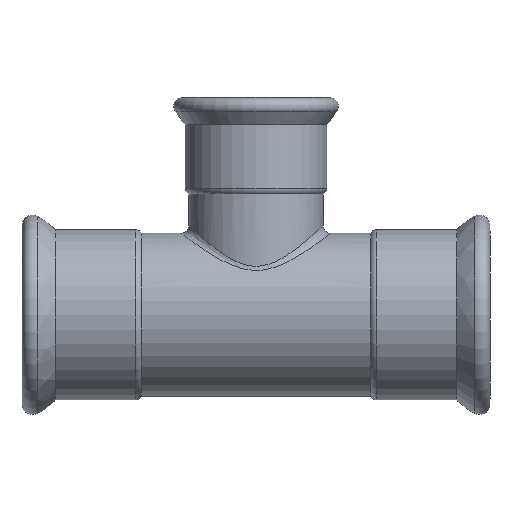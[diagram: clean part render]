
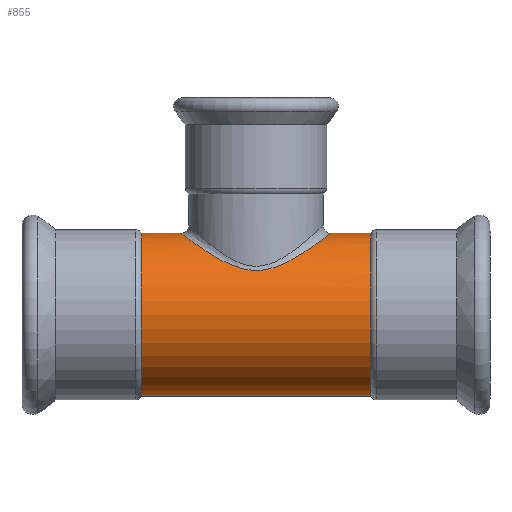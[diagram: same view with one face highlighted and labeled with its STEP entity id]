
A CAD part, front view. The second image highlights one B-rep face of the part: STEP entity #855.
In plain terms, the highlighted cylindrical face has radius 54 mm (diameter 108 mm), a full revolution.
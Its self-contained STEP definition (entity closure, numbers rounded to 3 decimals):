
#16=FACE_BOUND('',#152,.T.);
#22=B_SPLINE_CURVE_WITH_KNOTS('',3,(#2166,#2167,#2168,#2169,#2170,#2171,
#2172,#2173,#2174,#2175,#2176,#2177,#2178,#2179,#2180,#2181,#2182,#2183,
#2184,#2185,#2186,#2187,#2188,#2189,#2190,#2191,#2192,#2193,#2194,#2195,
#2196,#2197,#2198,#2199),.UNSPECIFIED.,.T.,.F.,(4,1,1,1,1,1,1,1,1,1,1,1,
1,1,1,1,1,1,1,1,1,1,1,1,1,1,1,1,1,1,1,4),(-28.921,-28.404,
-27.888,-26.855,-25.822,-24.789,
-23.412,-22.035,-20.658,-19.969,
-19.28,-18.592,-17.903,-16.526,
-15.493,-15.149,-14.46,-13.772,
-12.395,-11.706,-11.017,-9.64,
-8.263,-6.886,-5.509,-4.82,
-4.132,-3.099,-2.066,-1.033,
-0.516,0.),.UNSPECIFIED.);
#43=LINE('',#2211,#64);
#64=VECTOR('',#1244,54.);
#82=CYLINDRICAL_SURFACE('',#983,54.);
#111=FACE_OUTER_BOUND('',#151,.T.);
#151=EDGE_LOOP('',(#689,#690,#691,#692,#693,#694,#695,#696));
#152=EDGE_LOOP('',(#697));
#243=CIRCLE('',#984,54.);
#244=CIRCLE('',#985,54.);
#245=CIRCLE('',#986,54.);
#246=CIRCLE('',#987,54.);
#247=CIRCLE('',#988,54.);
#248=CIRCLE('',#989,54.);
#351=VERTEX_POINT('',#2124);
#355=VERTEX_POINT('',#2205);
#356=VERTEX_POINT('',#2206);
#357=VERTEX_POINT('',#2208);
#358=VERTEX_POINT('',#2210);
#359=VERTEX_POINT('',#2212);
#360=VERTEX_POINT('',#2214);
#478=EDGE_CURVE('',#351,#351,#22,.T.);
#481=EDGE_CURVE('',#355,#356,#243,.T.);
#482=EDGE_CURVE('',#356,#357,#244,.T.);
#483=EDGE_CURVE('',#357,#358,#43,.T.);
#484=EDGE_CURVE('',#359,#358,#245,.T.);
#485=EDGE_CURVE('',#360,#359,#246,.T.);
#486=EDGE_CURVE('',#358,#360,#247,.T.);
#487=EDGE_CURVE('',#357,#355,#248,.T.);
#689=ORIENTED_EDGE('',*,*,#481,.T.);
#690=ORIENTED_EDGE('',*,*,#482,.T.);
#691=ORIENTED_EDGE('',*,*,#483,.T.);
#692=ORIENTED_EDGE('',*,*,#484,.F.);
#693=ORIENTED_EDGE('',*,*,#485,.F.);
#694=ORIENTED_EDGE('',*,*,#486,.F.);
#695=ORIENTED_EDGE('',*,*,#483,.F.);
#696=ORIENTED_EDGE('',*,*,#487,.T.);
#697=ORIENTED_EDGE('',*,*,#478,.F.);
#855=ADVANCED_FACE('',(#111,#16),#82,.T.);
#983=AXIS2_PLACEMENT_3D('',#2204,#1238,#1239);
#984=AXIS2_PLACEMENT_3D('',#2207,#1240,#1241);
#985=AXIS2_PLACEMENT_3D('',#2209,#1242,#1243);
#986=AXIS2_PLACEMENT_3D('',#2213,#1245,#1246);
#987=AXIS2_PLACEMENT_3D('',#2215,#1247,#1248);
#988=AXIS2_PLACEMENT_3D('',#2216,#1249,#1250);
#989=AXIS2_PLACEMENT_3D('',#2217,#1251,#1252);
#1238=DIRECTION('center_axis',(1.,0.,0.));
#1239=DIRECTION('ref_axis',(0.,1.,0.));
#1240=DIRECTION('center_axis',(1.,0.,0.));
#1241=DIRECTION('ref_axis',(0.,1.,0.));
#1242=DIRECTION('center_axis',(1.,0.,0.));
#1243=DIRECTION('ref_axis',(0.,1.,0.));
#1244=DIRECTION('',(1.,0.,0.));
#1245=DIRECTION('center_axis',(1.,0.,0.));
#1246=DIRECTION('ref_axis',(0.,1.,0.));
#1247=DIRECTION('center_axis',(1.,0.,0.));
#1248=DIRECTION('ref_axis',(0.,1.,0.));
#1249=DIRECTION('center_axis',(1.,0.,0.));
#1250=DIRECTION('ref_axis',(0.,1.,0.));
#1251=DIRECTION('center_axis',(1.,0.,0.));
#1252=DIRECTION('ref_axis',(0.,1.,0.));
#2124=CARTESIAN_POINT('',(0.,45.259,29.455));
#2166=CARTESIAN_POINT('Ctrl Pts',(0.,45.259,
29.455));
#2167=CARTESIAN_POINT('Ctrl Pts',(-1.971,45.259,29.455));
#2168=CARTESIAN_POINT('Ctrl Pts',(-5.914,45.041,29.793));
#2169=CARTESIAN_POINT('Ctrl Pts',(-13.465,43.789,31.652));
#2170=CARTESIAN_POINT('Ctrl Pts',(-21.988,40.92,35.442));
#2171=CARTESIAN_POINT('Ctrl Pts',(-30.847,35.802,40.684));
#2172=CARTESIAN_POINT('Ctrl Pts',(-39.235,28.32,46.367));
#2173=CARTESIAN_POINT('Ctrl Pts',(-46.317,17.783,51.593));
#2174=CARTESIAN_POINT('Ctrl Pts',(-50.15,3.748,54.54));
#2175=CARTESIAN_POINT('Ctrl Pts',(-49.06,-8.483,53.696));
#2176=CARTESIAN_POINT('Ctrl Pts',(-45.862,-17.393,51.27));
#2177=CARTESIAN_POINT('Ctrl Pts',(-42.45,-23.534,48.743));
#2178=CARTESIAN_POINT('Ctrl Pts',(-38.288,-28.89,45.75));
#2179=CARTESIAN_POINT('Ctrl Pts',(-31.741,-35.164,41.282));
#2180=CARTESIAN_POINT('Ctrl Pts',(-23.097,-40.543,35.941));
#2181=CARTESIAN_POINT('Ctrl Pts',(-14.042,-43.595,31.908));
#2182=CARTESIAN_POINT('Ctrl Pts',(-6.566,-44.966,29.914));
#2183=CARTESIAN_POINT('Ctrl Pts',(-0.005,-45.457,
29.142));
#2184=CARTESIAN_POINT('Ctrl Pts',(10.516,-44.669,30.388));
#2185=CARTESIAN_POINT('Ctrl Pts',(19.858,-41.832,34.384));
#2186=CARTESIAN_POINT('Ctrl Pts',(27.923,-37.537,38.924));
#2187=CARTESIAN_POINT('Ctrl Pts',(35.216,-32.263,43.569));
#2188=CARTESIAN_POINT('Ctrl Pts',(42.847,-23.886,48.989));
#2189=CARTESIAN_POINT('Ctrl Pts',(48.83,-10.998,53.518));
#2190=CARTESIAN_POINT('Ctrl Pts',(50.149,3.697,54.54));
#2191=CARTESIAN_POINT('Ctrl Pts',(46.991,15.377,52.11));
#2192=CARTESIAN_POINT('Ctrl Pts',(42.445,23.54,48.737));
#2193=CARTESIAN_POINT('Ctrl Pts',(37.581,29.798,45.245));
#2194=CARTESIAN_POINT('Ctrl Pts',(30.801,35.838,40.654));
#2195=CARTESIAN_POINT('Ctrl Pts',(21.972,40.923,35.435));
#2196=CARTESIAN_POINT('Ctrl Pts',(13.456,43.791,31.649));
#2197=CARTESIAN_POINT('Ctrl Pts',(5.917,45.04,29.794));
#2198=CARTESIAN_POINT('Ctrl Pts',(1.971,45.259,29.455));
#2199=CARTESIAN_POINT('Ctrl Pts',(0.,45.259,
29.455));
#2204=CARTESIAN_POINT('Origin',(-65.51,0.,0.));
#2205=CARTESIAN_POINT('',(-76.02,54.,0.));
#2206=CARTESIAN_POINT('',(-76.02,0.,54.));
#2207=CARTESIAN_POINT('Origin',(-76.02,0.,0.));
#2208=CARTESIAN_POINT('',(-76.02,-54.,0.));
#2209=CARTESIAN_POINT('Origin',(-76.02,0.,0.));
#2210=CARTESIAN_POINT('',(76.02,-54.,0.));
#2211=CARTESIAN_POINT('',(-65.51,-54.,0.));
#2212=CARTESIAN_POINT('',(76.02,0.,54.));
#2213=CARTESIAN_POINT('Origin',(76.02,0.,0.));
#2214=CARTESIAN_POINT('',(76.02,54.,0.));
#2215=CARTESIAN_POINT('Origin',(76.02,0.,0.));
#2216=CARTESIAN_POINT('Origin',(76.02,0.,0.));
#2217=CARTESIAN_POINT('Origin',(-76.02,0.,0.));
